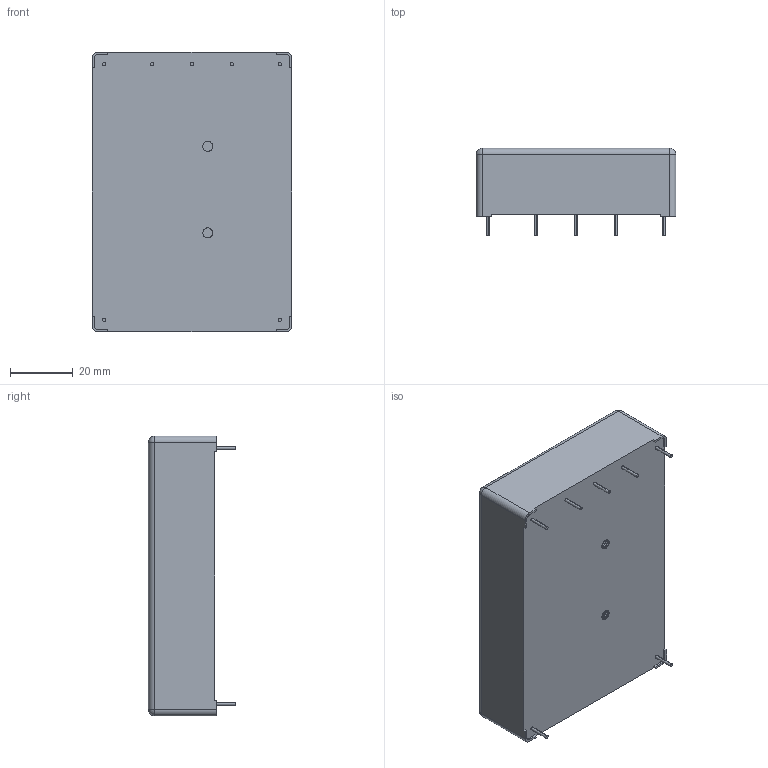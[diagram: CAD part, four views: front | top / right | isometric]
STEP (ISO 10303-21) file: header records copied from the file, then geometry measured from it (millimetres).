
FILE_DESCRIPTION (( 'STEP AP203' ), '1' );
FILE_NAME ('TMP 30 Triple Output.STEP', '2020-11-20T01:04:07', ( '' ), ( '' ), 'SwSTEP 2.0', 'SolidWorks 2020', '' );
FILE_SCHEMA (( 'CONFIG_CONTROL_DESIGN' ));
Length unit declared in the file: millimetre
Products named in the file (1): TMP 30 Triple Output
Bounding box: 63.5 x 27.7 x 88.9 mm (x, y, z)
Volume: 118175 mm3; surface area: 17740.3 mm2
Topology: 1 solids, 1 shells, 109 faces, 276 edges, 174 vertices
Faces by surface type: cylinder 58, plane 39, bspline 8, sphere 4
Entity records: 6016 total; most frequent: CARTESIAN_POINT 3515, ORIENTED_EDGE 544, DIRECTION 471, EDGE_CURVE 272, VERTEX_POINT 174, AXIS2_PLACEMENT_3D 166, LINE 139, VECTOR 139
